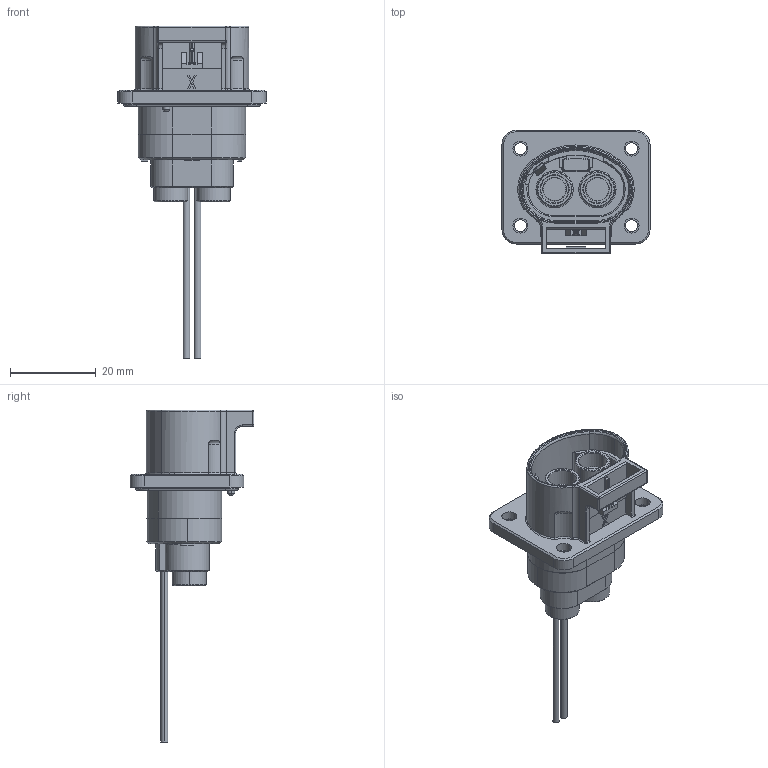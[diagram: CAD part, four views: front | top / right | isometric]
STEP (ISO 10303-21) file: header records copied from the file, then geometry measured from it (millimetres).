
FILE_DESCRIPTION (( 'STEP AP214' ), '1' );
FILE_NAME ('PL082X-61-X-2.STEP', '2021-03-24T08:29:39', ( '' ), ( '' ), 'SwSTEP 2.0', 'SolidWorks 2018', '' );
FILE_SCHEMA (( 'AUTOMOTIVE_DESIGN' ));
Length unit declared in the file: millimetre
Products named in the file (1): PL082X-61-X-2
Bounding box: 34.6 x 28.9 x 77.6 mm (x, y, z)
Volume: 10322.5 mm3; surface area: 10004.7 mm2
Topology: 1 solids, 1 shells, 642 faces, 1582 edges, 964 vertices
Faces by surface type: cylinder 260, plane 209, torus 102, cone 42, sphere 16, bspline 13
Entity records: 26585 total; most frequent: CARTESIAN_POINT 4208, DIRECTION 3491, ORIENTED_EDGE 3132, EDGE_CURVE 1566, AXIS2_PLACEMENT_3D 1366, VERTEX_POINT 963, VECTOR 759, LINE 759
